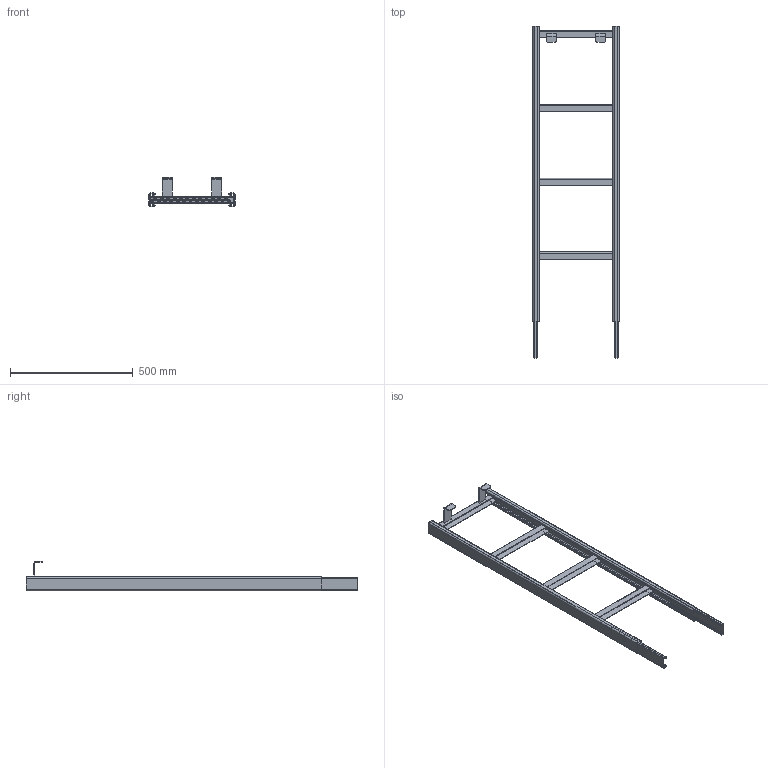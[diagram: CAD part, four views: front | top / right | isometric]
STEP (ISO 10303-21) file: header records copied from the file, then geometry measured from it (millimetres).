
FILE_DESCRIPTION((''),'2;1');
FILE_NAME('105426-600','2018-11-27T',('stat'),('HUBER SE'),'PRO/ENGINEER BY PARAMETRIC TECHNOLOGY CORPORATION, 2017170','PRO/ENGINEER BY PARAMETRIC TECHNOLOGY CORPORATION, 2017170','');
FILE_SCHEMA(('AUTOMOTIVE_DESIGN { 1 0 10303 214 1 1 1 1 }'));
Length unit declared in the file: millimetre
Products named in the file (1): 105426-600
Bounding box: 350 x 1350 x 121.5 mm (x, y, z)
Volume: 1029557.4 mm3; surface area: 866618.4 mm2
Topology: 6 solids, 6 shells, 1144 faces, 2560 edges, 1532 vertices
Faces by surface type: torus 400, cone 400, plane 284, cylinder 60
Entity records: 33025 total; most frequent: DIRECTION 6593, CARTESIAN_POINT 5247, ORIENTED_EDGE 5120, AXIS2_PLACEMENT_3D 2881, EDGE_CURVE 2560, CIRCLE 1732, VERTEX_POINT 1532, EDGE_LOOP 1448
